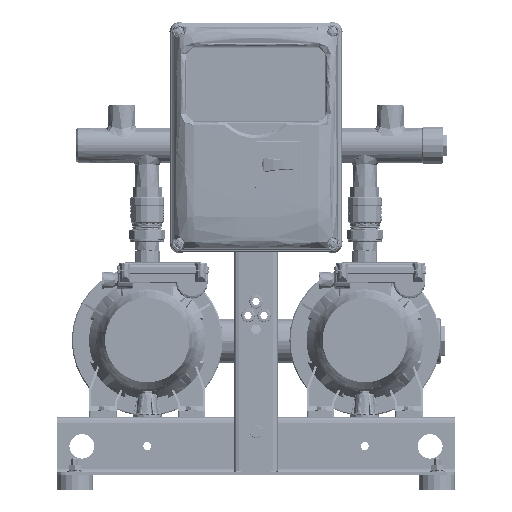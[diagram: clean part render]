
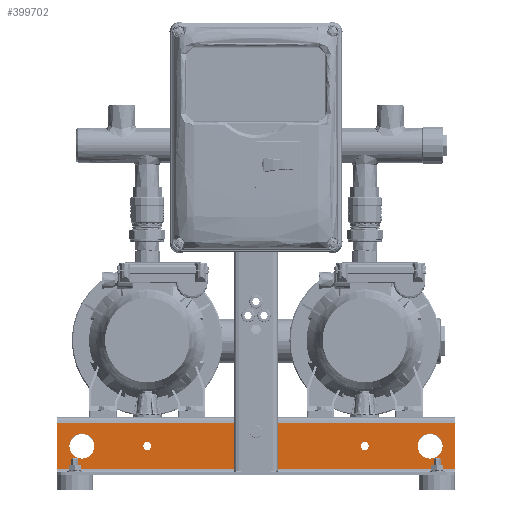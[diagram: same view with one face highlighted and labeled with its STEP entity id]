
A CAD part, top view. The second image highlights one B-rep face of the part: STEP entity #399702.
In plain terms, the highlighted planar face has unit normal (0, 0, 1) as drawn and (0, 0, -1) by its records, which use the part's own axes.
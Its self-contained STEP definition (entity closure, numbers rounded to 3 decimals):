
#393433=DIRECTION('',(1.,0.,0.));
#393434=VECTOR('',#393433,550.);
#393435=CARTESIAN_POINT('',(-275.,-8.,-150.));
#393436=LINE('',#393435,#393434);
#395663=DIRECTION('',(0.,1.,0.));
#395664=VECTOR('',#395663,64.);
#395665=CARTESIAN_POINT('',(-275.,-72.,-150.));
#395666=LINE('',#395665,#395664);
#395684=DIRECTION('',(1.,0.,0.));
#395685=VECTOR('',#395684,550.);
#395686=CARTESIAN_POINT('',(-275.,-72.,-150.));
#395687=LINE('',#395686,#395685);
#395714=DIRECTION('',(0.,1.,0.));
#395715=VECTOR('',#395714,26.);
#395716=CARTESIAN_POINT('',(-26.7,-40.,-150.));
#395717=LINE('',#395716,#395715);
#395721=DIRECTION('',(1.,0.,0.));
#395722=VECTOR('',#395721,3.6);
#395723=CARTESIAN_POINT('',(-30.3,-40.,-150.));
#395724=LINE('',#395723,#395722);
#395728=DIRECTION('',(0.,-1.,0.));
#395729=VECTOR('',#395728,26.);
#395730=CARTESIAN_POINT('',(-30.3,-14.,-150.));
#395731=LINE('',#395730,#395729);
#395735=DIRECTION('',(-1.,0.,0.));
#395736=VECTOR('',#395735,3.6);
#395737=CARTESIAN_POINT('',(-26.7,-14.,-150.));
#395738=LINE('',#395737,#395736);
#395742=DIRECTION('',(0.,1.,0.));
#395743=VECTOR('',#395742,26.);
#395744=CARTESIAN_POINT('',(30.3,-40.,-150.));
#395745=LINE('',#395744,#395743);
#395749=DIRECTION('',(1.,0.,0.));
#395750=VECTOR('',#395749,3.6);
#395751=CARTESIAN_POINT('',(26.7,-40.,-150.));
#395752=LINE('',#395751,#395750);
#395756=DIRECTION('',(0.,-1.,0.));
#395757=VECTOR('',#395756,26.);
#395758=CARTESIAN_POINT('',(26.7,-14.,-150.));
#395759=LINE('',#395758,#395757);
#395763=DIRECTION('',(-1.,0.,0.));
#395764=VECTOR('',#395763,3.6);
#395765=CARTESIAN_POINT('',(30.3,-14.,-150.));
#395766=LINE('',#395765,#395764);
#395770=CARTESIAN_POINT('',(0.,-20.,-150.));
#395771=DIRECTION('',(0.,0.,-1.));
#395772=DIRECTION('',(1.,0.,0.));
#395773=AXIS2_PLACEMENT_3D('',#395770,#395771,#395772);
#395778=CARTESIAN_POINT('',(0.,-20.,-150.));
#395779=DIRECTION('',(0.,0.,-1.));
#395780=DIRECTION('',(-1.,0.,0.));
#395781=AXIS2_PLACEMENT_3D('',#395778,#395779,#395780);
#395786=CARTESIAN_POINT('',(-240.,-40.,-150.));
#395787=DIRECTION('',(0.,0.,1.));
#395788=DIRECTION('',(-1.,0.,0.));
#395789=AXIS2_PLACEMENT_3D('',#395786,#395787,#395788);
#395794=CARTESIAN_POINT('',(-240.,-40.,-150.));
#395795=DIRECTION('',(0.,0.,1.));
#395796=DIRECTION('',(1.,0.,0.));
#395797=AXIS2_PLACEMENT_3D('',#395794,#395795,#395796);
#395802=CARTESIAN_POINT('',(240.,-40.,-150.));
#395803=DIRECTION('',(0.,0.,1.));
#395804=DIRECTION('',(-1.,0.,0.));
#395805=AXIS2_PLACEMENT_3D('',#395802,#395803,#395804);
#395810=CARTESIAN_POINT('',(240.,-40.,-150.));
#395811=DIRECTION('',(0.,0.,1.));
#395812=DIRECTION('',(1.,0.,0.));
#395813=AXIS2_PLACEMENT_3D('',#395810,#395811,#395812);
#395818=CARTESIAN_POINT('',(-150.,-40.,-150.));
#395819=DIRECTION('',(0.,0.,1.));
#395820=DIRECTION('',(1.,0.,0.));
#395821=AXIS2_PLACEMENT_3D('',#395818,#395819,#395820);
#395826=CARTESIAN_POINT('',(-150.,-40.,-150.));
#395827=DIRECTION('',(0.,0.,1.));
#395828=DIRECTION('',(-1.,0.,0.));
#395829=AXIS2_PLACEMENT_3D('',#395826,#395827,#395828);
#395834=CARTESIAN_POINT('',(150.,-40.,-150.));
#395835=DIRECTION('',(0.,0.,-1.));
#395836=DIRECTION('',(-1.,0.,0.));
#395837=AXIS2_PLACEMENT_3D('',#395834,#395835,#395836);
#395842=CARTESIAN_POINT('',(150.,-40.,-150.));
#395843=DIRECTION('',(0.,0.,-1.));
#395844=DIRECTION('',(1.,0.,0.));
#395845=AXIS2_PLACEMENT_3D('',#395842,#395843,#395844);
#395864=DIRECTION('',(0.,1.,0.));
#395865=VECTOR('',#395864,64.);
#395866=CARTESIAN_POINT('',(275.,-72.,-150.));
#395867=LINE('',#395866,#395865);
#397429=CARTESIAN_POINT('',(-275.,-72.,-150.));
#397430=CARTESIAN_POINT('',(-275.,-8.,-150.));
#397431=VERTEX_POINT('',#397429);
#397432=VERTEX_POINT('',#397430);
#397433=CARTESIAN_POINT('',(275.,-72.,-150.));
#397434=CARTESIAN_POINT('',(275.,-8.,-150.));
#397435=VERTEX_POINT('',#397433);
#397436=VERTEX_POINT('',#397434);
#397789=CARTESIAN_POINT('',(-26.7,-40.,-150.));
#397790=CARTESIAN_POINT('',(-26.7,-14.,-150.));
#397791=VERTEX_POINT('',#397789);
#397792=VERTEX_POINT('',#397790);
#397793=CARTESIAN_POINT('',(-30.3,-14.,-150.));
#397794=VERTEX_POINT('',#397793);
#397795=CARTESIAN_POINT('',(-30.3,-40.,-150.));
#397796=VERTEX_POINT('',#397795);
#397797=CARTESIAN_POINT('',(30.3,-40.,-150.));
#397798=CARTESIAN_POINT('',(30.3,-14.,-150.));
#397799=VERTEX_POINT('',#397797);
#397800=VERTEX_POINT('',#397798);
#397801=CARTESIAN_POINT('',(26.7,-14.,-150.));
#397802=VERTEX_POINT('',#397801);
#397803=CARTESIAN_POINT('',(26.7,-40.,-150.));
#397804=VERTEX_POINT('',#397803);
#397821=CARTESIAN_POINT('',(6.25,-20.,-150.));
#397822=CARTESIAN_POINT('',(-6.25,-20.,-150.));
#397823=VERTEX_POINT('',#397821);
#397824=VERTEX_POINT('',#397822);
#397845=CARTESIAN_POINT('',(-257.5,-40.,-150.));
#397846=CARTESIAN_POINT('',(-222.5,-40.,-150.));
#397847=VERTEX_POINT('',#397845);
#397848=VERTEX_POINT('',#397846);
#397849=CARTESIAN_POINT('',(222.5,-40.,-150.));
#397850=CARTESIAN_POINT('',(257.5,-40.,-150.));
#397851=VERTEX_POINT('',#397849);
#397852=VERTEX_POINT('',#397850);
#397945=CARTESIAN_POINT('',(-143.75,-40.,-150.));
#397946=CARTESIAN_POINT('',(-156.25,-40.,-150.));
#397947=VERTEX_POINT('',#397945);
#397948=VERTEX_POINT('',#397946);
#397957=CARTESIAN_POINT('',(143.75,-40.,-150.));
#397959=VERTEX_POINT('',#397957);
#397965=CARTESIAN_POINT('',(156.25,-40.,-150.));
#397967=VERTEX_POINT('',#397965);
#399640=CARTESIAN_POINT('',(-275.,-76.,-150.));
#399641=DIRECTION('',(0.,0.,-1.));
#399642=DIRECTION('',(0.,1.,0.));
#399643=AXIS2_PLACEMENT_3D('',#399640,#399641,#399642);
#399644=PLANE('',#399643);
#399645=ORIENTED_EDGE('',*,*,#399593,.F.);
#399646=ORIENTED_EDGE('',*,*,#399630,.T.);
#399648=ORIENTED_EDGE('',*,*,#399647,.T.);
#399649=ORIENTED_EDGE('',*,*,#398701,.F.);
#399650=EDGE_LOOP('',(#399645,#399646,#399648,#399649));
#399651=FACE_OUTER_BOUND('',#399650,.F.);
#399653=ORIENTED_EDGE('',*,*,#399652,.F.);
#399655=ORIENTED_EDGE('',*,*,#399654,.F.);
#399657=ORIENTED_EDGE('',*,*,#399656,.F.);
#399659=ORIENTED_EDGE('',*,*,#399658,.F.);
#399660=EDGE_LOOP('',(#399653,#399655,#399657,#399659));
#399661=FACE_BOUND('',#399660,.F.);
#399663=ORIENTED_EDGE('',*,*,#399662,.F.);
#399665=ORIENTED_EDGE('',*,*,#399664,.F.);
#399667=ORIENTED_EDGE('',*,*,#399666,.F.);
#399669=ORIENTED_EDGE('',*,*,#399668,.F.);
#399670=EDGE_LOOP('',(#399663,#399665,#399667,#399669));
#399671=FACE_BOUND('',#399670,.F.);
#399673=ORIENTED_EDGE('',*,*,#399672,.T.);
#399675=ORIENTED_EDGE('',*,*,#399674,.T.);
#399676=EDGE_LOOP('',(#399673,#399675));
#399677=FACE_BOUND('',#399676,.F.);
#399679=ORIENTED_EDGE('',*,*,#399678,.F.);
#399681=ORIENTED_EDGE('',*,*,#399680,.F.);
#399682=EDGE_LOOP('',(#399679,#399681));
#399683=FACE_BOUND('',#399682,.F.);
#399685=ORIENTED_EDGE('',*,*,#399684,.F.);
#399687=ORIENTED_EDGE('',*,*,#399686,.F.);
#399688=EDGE_LOOP('',(#399685,#399687));
#399689=FACE_BOUND('',#399688,.F.);
#399691=ORIENTED_EDGE('',*,*,#399690,.F.);
#399693=ORIENTED_EDGE('',*,*,#399692,.F.);
#399694=EDGE_LOOP('',(#399691,#399693));
#399695=FACE_BOUND('',#399694,.F.);
#399697=ORIENTED_EDGE('',*,*,#399696,.T.);
#399699=ORIENTED_EDGE('',*,*,#399698,.T.);
#399700=EDGE_LOOP('',(#399697,#399699));
#399701=FACE_BOUND('',#399700,.F.);
#395774=CIRCLE('',#395773,6.25);
#395782=CIRCLE('',#395781,6.25);
#395790=CIRCLE('',#395789,17.5);
#395798=CIRCLE('',#395797,17.5);
#395806=CIRCLE('',#395805,17.5);
#395814=CIRCLE('',#395813,17.5);
#395822=CIRCLE('',#395821,6.25);
#395830=CIRCLE('',#395829,6.25);
#395838=CIRCLE('',#395837,6.25);
#395846=CIRCLE('',#395845,6.25);
#398701=EDGE_CURVE('',#397432,#397436,#393436,.T.);
#399593=EDGE_CURVE('',#397431,#397432,#395666,.T.);
#399630=EDGE_CURVE('',#397431,#397435,#395687,.T.);
#399647=EDGE_CURVE('',#397435,#397436,#395867,.T.);
#399652=EDGE_CURVE('',#397791,#397792,#395717,.T.);
#399654=EDGE_CURVE('',#397796,#397791,#395724,.T.);
#399656=EDGE_CURVE('',#397794,#397796,#395731,.T.);
#399658=EDGE_CURVE('',#397792,#397794,#395738,.T.);
#399662=EDGE_CURVE('',#397799,#397800,#395745,.T.);
#399664=EDGE_CURVE('',#397804,#397799,#395752,.T.);
#399666=EDGE_CURVE('',#397802,#397804,#395759,.T.);
#399668=EDGE_CURVE('',#397800,#397802,#395766,.T.);
#399672=EDGE_CURVE('',#397823,#397824,#395774,.T.);
#399674=EDGE_CURVE('',#397824,#397823,#395782,.T.);
#399678=EDGE_CURVE('',#397847,#397848,#395790,.T.);
#399680=EDGE_CURVE('',#397848,#397847,#395798,.T.);
#399684=EDGE_CURVE('',#397851,#397852,#395806,.T.);
#399686=EDGE_CURVE('',#397852,#397851,#395814,.T.);
#399690=EDGE_CURVE('',#397947,#397948,#395822,.T.);
#399692=EDGE_CURVE('',#397948,#397947,#395830,.T.);
#399696=EDGE_CURVE('',#397959,#397967,#395838,.T.);
#399698=EDGE_CURVE('',#397967,#397959,#395846,.T.);
#399702=ADVANCED_FACE('',(#399651,#399661,#399671,#399677,#399683,#399689,
#399695,#399701),#399644,.T.);
